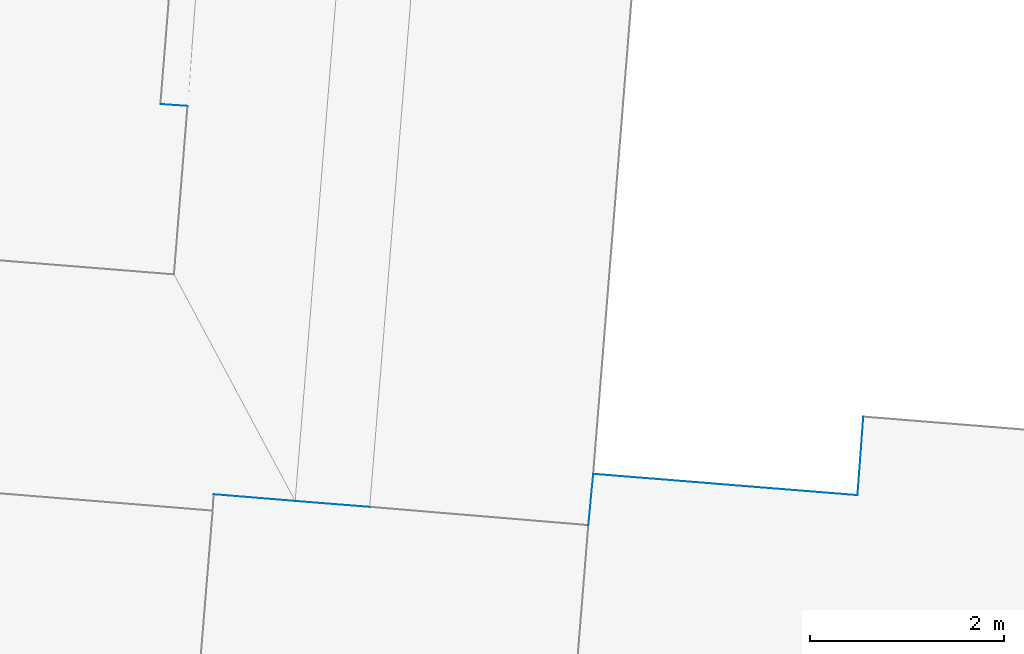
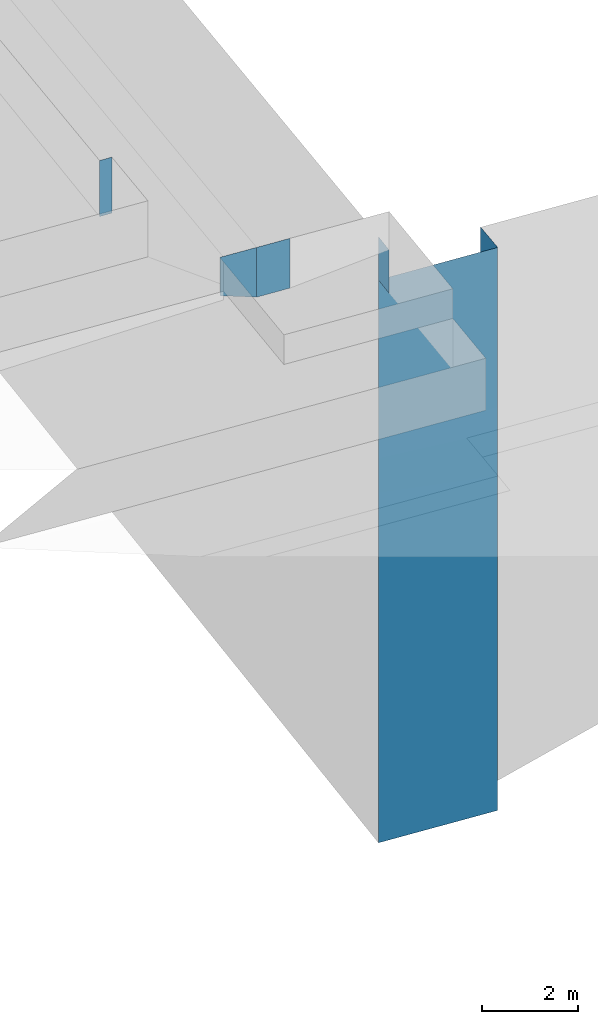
# Not in any storey, part 72 of 136: 6 walls.
"""IFC4 building model written with IfcOpenShell, lengths in metres."""

from ifc_helpers import new_model, entity, si_unit, converted_unit, origin, place, context, subcontext, project, spatial, face_set, surface_model, element, save


model = new_model("IFC4")

# Units and contexts
model_context = context("Model", 3, precision=1e-05, world=origin())
body_context = subcontext(model_context, "Body", "Model", "MODEL_VIEW")
ifc_project = project(units=[converted_unit("PLANEANGLEUNIT", "DEGREE", entity("IfcRatioMeasure", 0.0174532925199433), si_unit("PLANEANGLEUNIT", "RADIAN"), dimensions=[0, 0, 0, 0, 0, 0, 0]), si_unit("AREAUNIT", "SQUARE_METRE"), si_unit("LENGTHUNIT", "METRE")], contexts=[model_context])

# Site, building
site_placement = place(None, origin())
site = spatial("IfcSite", under=ifc_project, at=site_placement, Name="_site")
building_placement = place(site_placement, origin())
building = spatial("IfcBuilding", under=site, at=building_placement, Name="_building")

# Walls
wall_1_placement = place(building_placement, origin())
element("IfcWall", 1, at=wall_1_placement, inside=building, Name="Wall", PredefinedType="NOTDEFINED", context=body_context, shape_type="SurfaceModel", body=[
    surface_model("IfcFaceBasedSurfaceModel", [(222.69, 65.05, 54.32), (223.53, 64.98, 54.32), (223.53, 64.98, 53.06), (222.69, 65.05, 53.35)], [face_set([[[0, 1, 2, 3]]])]),
])
wall_2_placement = place(building_placement, origin())
element("IfcWall", 2, at=wall_2_placement, inside=building, Name="Wall", PredefinedType="NOTDEFINED", context=body_context, shape_type="SurfaceModel", body=[
    surface_model("IfcFaceBasedSurfaceModel", [(229.34, 65.04, 52.25), (229.4, 65.851, 52.25), (229.4, 65.851, 38.0), (229.34, 65.04, 38.0)], [face_set([[[0, 1, 2, 3]]])]),
])
wall_3_placement = place(building_placement, origin())
element("IfcWall", 3, at=wall_3_placement, inside=building, Name="Wall", PredefinedType="NOTDEFINED", context=body_context, shape_type="SurfaceModel", body=[
    surface_model("IfcFaceBasedSurfaceModel", [(226.61, 65.26, 53.35), (226.56, 64.73, 53.35), (226.56, 64.73, 52.25), (226.61, 65.26, 52.25)], [face_set([[[0, 1, 2, 3]]])]),
])
wall_4_placement = place(building_placement, origin())
element("IfcWall", 4, at=wall_4_placement, inside=building, Name="Wall", PredefinedType="NOTDEFINED", context=body_context, shape_type="SurfaceModel", body=[
    surface_model("IfcFaceBasedSurfaceModel", [(222.14, 69.08, 54.52), (222.42, 69.061, 54.52), (222.42, 69.061, 53.1), (222.14, 69.08, 53.1)], [face_set([[[0, 1, 2, 3]]])]),
])
wall_5_placement = place(building_placement, origin())
element("IfcWall", 5, at=wall_5_placement, inside=building, Name="Wall", PredefinedType="NOTDEFINED", context=body_context, shape_type="SurfaceModel", body=[
    surface_model("IfcFaceBasedSurfaceModel", [(223.53, 64.98, 54.32), (224.3, 64.919, 54.32), (224.3, 64.919, 53.06), (223.53, 64.98, 53.06)], [face_set([[[0, 1, 2, 3]]])]),
])
wall_6_placement = place(building_placement, origin())
element("IfcWall", 6, at=wall_6_placement, inside=building, Name="Wall", PredefinedType="NOTDEFINED", context=body_context, shape_type="SurfaceModel", body=[
    surface_model("IfcFaceBasedSurfaceModel", [(226.61, 65.26, 52.25), (229.34, 65.04, 52.25), (229.34, 65.04, 38.0), (226.61, 65.26, 38.0)], [face_set([[[0, 1, 2, 3]]])]),
])

save(model, "model.ifc")
